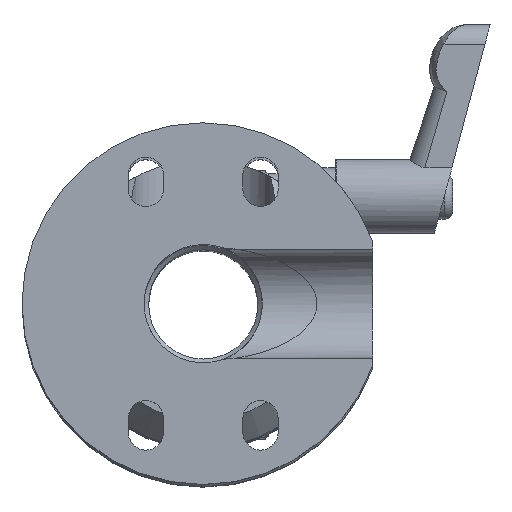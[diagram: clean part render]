
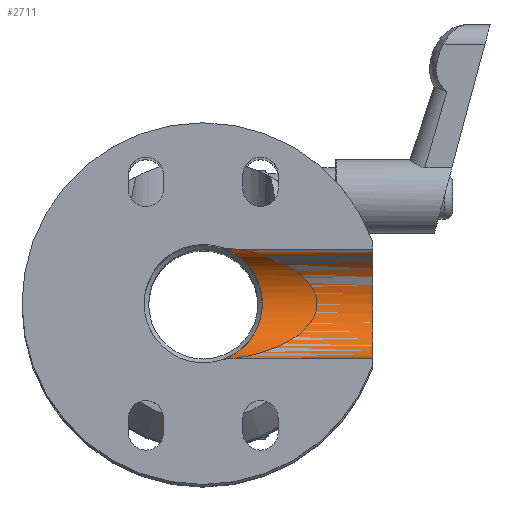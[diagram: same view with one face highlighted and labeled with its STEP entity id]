
A CAD part, top view. The second image highlights one B-rep face of the part: STEP entity #2711.
In plain terms, the highlighted cylindrical face has radius 9.525 mm (diameter 19.05 mm), a partial arc.
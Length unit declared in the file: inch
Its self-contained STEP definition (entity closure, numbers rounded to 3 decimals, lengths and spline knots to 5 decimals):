
#1344 = CARTESIAN_POINT ( 'NONE',  ( 0.15625, -0.13, -0.375 ) ) ;
#1544 = VERTEX_POINT ( 'NONE', #21870 ) ;
#2028 = CARTESIAN_POINT ( 'NONE',  ( 0.19953, -0.00557, -0.35395 ) ) ;
#2439 = B_SPLINE_CURVE_WITH_KNOTS ( 'NONE', 3,
 ( #1344, #41016, #37298, #29857, #23356, #5486, #33832, #2028, #8284, #30543, #44717, #12711, #26814, #25898, #37536, #5717, #19869, #4792, #18957, #15475, #43802, #12021, #26119, #8519, #22674, #5029, #5934, #20796, #34975, #21012, #6861, #13626, #17084, #23580, #6156, #30779, #31258, #6392, #10126, #20320, #24265, #38666, #12943, #16625, #45398, #38449, #27057, #27743, #41243, #41927, #13393, #6637 ),
 .UNSPECIFIED., .F., .F.,
 ( 4, 2, 2, 2, 2, 2, 2, 2, 2, 2, 2, 2, 2, 2, 2, 2, 2, 2, 2, 2, 2, 2, 2, 2, 2, 4 ),
 ( 0.01445, 0.01548, 0.01651, 0.01754, 0.01856, 0.02062, 0.02267, 0.0237, 0.02473, 0.02576, 0.02678, 0.02884, 0.02987, 0.03089, 0.03192, 0.03295, 0.035, 0.03603, 0.03706, 0.03912, 0.04117, 0.04323, 0.04528, 0.04631, 0.04682, 0.04734 ),
 .UNSPECIFIED. ) ;
#2597 = AXIS2_PLACEMENT_3D ( 'NONE', #9346, #33719, #26263 ) ;
#2711 = ADVANCED_FACE ( 'NONE', ( #12151 ), #20218, .T. ) ;
#3343 = CARTESIAN_POINT ( 'NONE',  ( 1.165, -0.13, 0. ) ) ;
#3974 = LINE ( 'NONE', #31869, #28930 ) ;
#4792 = CARTESIAN_POINT ( 'NONE',  ( 0.34868, 0.18172, -0.2088 ) ) ;
#5029 = CARTESIAN_POINT ( 'NONE',  ( 0.40553, 0.24422, -0.0276 ) ) ;
#5486 = CARTESIAN_POINT ( 'NONE',  ( 0.18015, -0.03968, -0.36417 ) ) ;
#5717 = CARTESIAN_POINT ( 'NONE',  ( 0.32979, 0.16045, -0.23749 ) ) ;
#5934 = CARTESIAN_POINT ( 'NONE',  ( 0.40623, 0.24497, -0.0142 ) ) ;
#6156 = CARTESIAN_POINT ( 'NONE',  ( 0.36612, 0.20112, 0.17646 ) ) ;
#6392 = CARTESIAN_POINT ( 'NONE',  ( 0.3303, 0.16108, 0.23765 ) ) ;
#6637 = CARTESIAN_POINT ( 'NONE',  ( 0.15625, -0.13, 0.375 ) ) ;
#6861 = CARTESIAN_POINT ( 'NONE',  ( 0.40097, 0.23927, 0.06661 ) ) ;
#7786 = EDGE_CURVE ( 'NONE', #29712, #31974, #2439, .T. ) ;
#8284 = CARTESIAN_POINT ( 'NONE',  ( 0.20657, 0.00535, -0.34991 ) ) ;
#8392 = VECTOR ( 'NONE', #20164, 39.37008 ) ;
#8519 = CARTESIAN_POINT ( 'NONE',  ( 0.40082, 0.23911, -0.06755 ) ) ;
#9346 = CARTESIAN_POINT ( 'NONE',  ( 4.25069, -0.13, 0. ) ) ;
#10126 = CARTESIAN_POINT ( 'NONE',  ( 0.31682, 0.14574, 0.25518 ) ) ;
#12021 = CARTESIAN_POINT ( 'NONE',  ( 0.38527, 0.22219, -0.13128 ) ) ;
#12151 = FACE_OUTER_BOUND ( 'NONE', #17642, .T. ) ;
#12711 = CARTESIAN_POINT ( 'NONE',  ( 0.27307, 0.09423, -0.3014 ) ) ;
#12943 = CARTESIAN_POINT ( 'NONE',  ( 0.2284, 0.0373, 0.33639 ) ) ;
#13100 = ORIENTED_EDGE ( 'NONE', *, *, #22971, .T. ) ;
#13152 = ORIENTED_EDGE ( 'NONE', *, *, #25394, .F. ) ;
#13393 = CARTESIAN_POINT ( 'NONE',  ( 0.15625, -0.12317, 0.375 ) ) ;
#13626 = CARTESIAN_POINT ( 'NONE',  ( 0.39321, 0.23083, 0.10548 ) ) ;
#14073 = ORIENTED_EDGE ( 'NONE', *, *, #7786, .T. ) ;
#14239 = DIRECTION ( 'NONE',  ( -1., 0., 0. ) ) ;
#15475 = CARTESIAN_POINT ( 'NONE',  ( 0.36574, 0.20069, -0.17726 ) ) ;
#16625 = CARTESIAN_POINT ( 'NONE',  ( 0.19962, -0.00482, 0.35423 ) ) ;
#16931 = LINE ( 'NONE', #38977, #8392 ) ;
#17084 = CARTESIAN_POINT ( 'NONE',  ( 0.38549, 0.22243, 0.13063 ) ) ;
#17642 = EDGE_LOOP ( 'NONE', ( #13100, #31168, #14073, #13152 ) ) ;
#18436 = CARTESIAN_POINT ( 'NONE',  ( 1.165, -0.13, 0.375 ) ) ;
#18957 = CARTESIAN_POINT ( 'NONE',  ( 0.35459, 0.18832, -0.19862 ) ) ;
#19869 = CARTESIAN_POINT ( 'NONE',  ( 0.33628, 0.16779, -0.22823 ) ) ;
#19894 = CARTESIAN_POINT ( 'NONE',  ( 0.15625, -0.13, -0.375 ) ) ;
#20164 = DIRECTION ( 'NONE',  ( -1., 0., 0. ) ) ;
#20218 = CYLINDRICAL_SURFACE ( 'NONE', #2597, 0.375 ) ;
#20320 = CARTESIAN_POINT ( 'NONE',  ( 0.28844, 0.1126, 0.28687 ) ) ;
#20796 = CARTESIAN_POINT ( 'NONE',  ( 0.40627, 0.24502, 0.01278 ) ) ;
#21012 = CARTESIAN_POINT ( 'NONE',  ( 0.40295, 0.24142, 0.05341 ) ) ;
#21870 = CARTESIAN_POINT ( 'NONE',  ( 1.165, -0.13, -0.375 ) ) ;
#22674 = CARTESIAN_POINT ( 'NONE',  ( 0.40283, 0.2413, -0.05425 ) ) ;
#22971 = EDGE_CURVE ( 'NONE', #40817, #1544, #41472, .T. ) ;
#23356 = CARTESIAN_POINT ( 'NONE',  ( 0.16928, -0.06397, -0.36935 ) ) ;
#23529 = DIRECTION ( 'NONE',  ( -1., 0., 0. ) ) ;
#23580 = CARTESIAN_POINT ( 'NONE',  ( 0.3713, 0.20683, 0.16533 ) ) ;
#24265 = CARTESIAN_POINT ( 'NONE',  ( 0.27341, 0.09466, 0.3011 ) ) ;
#25394 = EDGE_CURVE ( 'NONE', #40817, #31974, #3974, .T. ) ;
#25744 = CARTESIAN_POINT ( 'NONE',  ( 0.15625, -0.13, 0.375 ) ) ;
#25898 = CARTESIAN_POINT ( 'NONE',  ( 0.30929, 0.13696, -0.26361 ) ) ;
#26119 = CARTESIAN_POINT ( 'NONE',  ( 0.39288, 0.23047, -0.10677 ) ) ;
#26263 = DIRECTION ( 'NONE',  ( 0., 0., 1. ) ) ;
#26814 = CARTESIAN_POINT ( 'NONE',  ( 0.28784, 0.1119, -0.28748 ) ) ;
#27057 = CARTESIAN_POINT ( 'NONE',  ( 0.16462, -0.07666, 0.37142 ) ) ;
#27743 = CARTESIAN_POINT ( 'NONE',  ( 0.15972, -0.09627, 0.37354 ) ) ;
#28930 = VECTOR ( 'NONE', #14239, 39.37008 ) ;
#29566 = EDGE_CURVE ( 'NONE', #1544, #29712, #16931, .T. ) ;
#29712 = VERTEX_POINT ( 'NONE', #19894 ) ;
#29857 = CARTESIAN_POINT ( 'NONE',  ( 0.16458, -0.07679, -0.37144 ) ) ;
#30543 = CARTESIAN_POINT ( 'NONE',  ( 0.22828, 0.03715, -0.33647 ) ) ;
#30779 = CARTESIAN_POINT ( 'NONE',  ( 0.35498, 0.18875, 0.19793 ) ) ;
#31168 = ORIENTED_EDGE ( 'NONE', *, *, #29566, .T. ) ;
#31258 = CARTESIAN_POINT ( 'NONE',  ( 0.34898, 0.18207, 0.20829 ) ) ;
#31869 = CARTESIAN_POINT ( 'NONE',  ( 4.25069, -0.13, 0.375 ) ) ;
#31974 = VERTEX_POINT ( 'NONE', #25744 ) ;
#33719 = DIRECTION ( 'NONE',  ( -1., 0., 0. ) ) ;
#33832 = CARTESIAN_POINT ( 'NONE',  ( 0.18633, -0.02807, -0.36107 ) ) ;
#34975 = CARTESIAN_POINT ( 'NONE',  ( 0.40561, 0.24431, 0.02647 ) ) ;
#36279 = AXIS2_PLACEMENT_3D ( 'NONE', #3343, #23529, #37706 ) ;
#37298 = CARTESIAN_POINT ( 'NONE',  ( 0.15808, -0.10287, -0.37425 ) ) ;
#37536 = CARTESIAN_POINT ( 'NONE',  ( 0.31631, 0.14505, -0.25516 ) ) ;
#37706 = DIRECTION ( 'NONE',  ( 0., -1., 0. ) ) ;
#38449 = CARTESIAN_POINT ( 'NONE',  ( 0.16932, -0.06387, 0.36933 ) ) ;
#38666 = CARTESIAN_POINT ( 'NONE',  ( 0.24344, 0.05702, 0.32581 ) ) ;
#38977 = CARTESIAN_POINT ( 'NONE',  ( 4.25069, -0.13, -0.375 ) ) ;
#40817 = VERTEX_POINT ( 'NONE', #18436 ) ;
#41016 = CARTESIAN_POINT ( 'NONE',  ( 0.15625, -0.11623, -0.375 ) ) ;
#41243 = CARTESIAN_POINT ( 'NONE',  ( 0.15845, -0.10288, 0.37408 ) ) ;
#41472 = CIRCLE ( 'NONE', #36279, 0.375 ) ;
#41927 = CARTESIAN_POINT ( 'NONE',  ( 0.15671, -0.11631, 0.37481 ) ) ;
#43802 = CARTESIAN_POINT ( 'NONE',  ( 0.371, 0.2065, -0.166 ) ) ;
#44717 = CARTESIAN_POINT ( 'NONE',  ( 0.24331, 0.05685, -0.3259 ) ) ;
#45398 = CARTESIAN_POINT ( 'NONE',  ( 0.18567, -0.02737, 0.36154 ) ) ;
